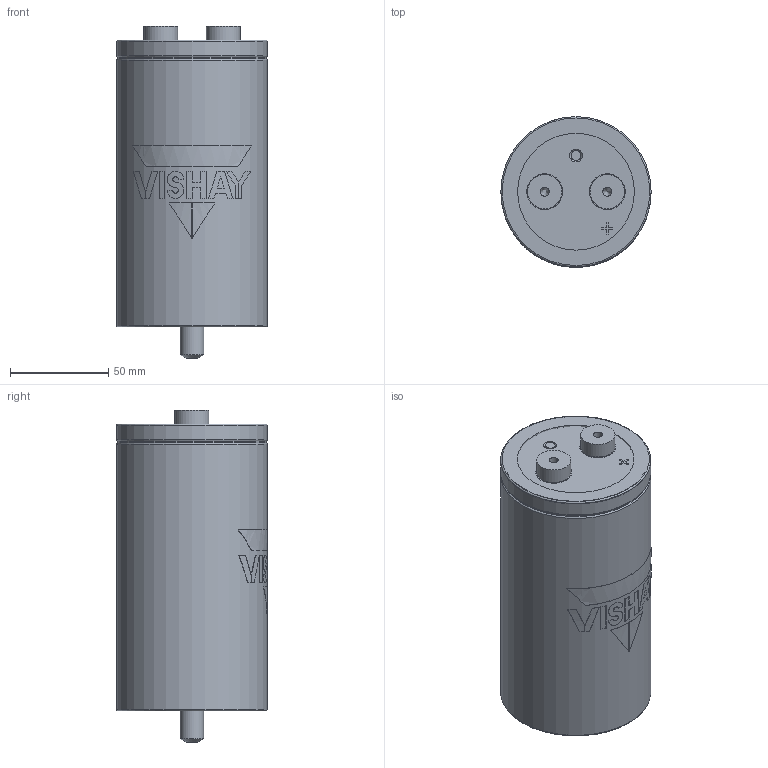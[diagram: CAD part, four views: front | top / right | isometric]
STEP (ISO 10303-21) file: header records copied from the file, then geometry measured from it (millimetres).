
FILE_DESCRIPTION(('FreeCAD Model'),'2;1');
FILE_NAME('C:/Users/tvandesteeg/Documents/Documents/FreeCAD/Stepfiles/ST capacitors/STB_HP_18mm_UNF14-28_76x146.step','2020-12-14T17:24:25',( 'Author'),(''),'Open CASCADE STEP processor 7.3','FreeCAD','Unknown' );
FILE_SCHEMA(('AUTOMOTIVE_DESIGN { 1 0 10303 214 1 1 1 1 }'));
Length unit declared in the file: millimetre
Products named in the file (8): VentBody; TerminalHole; TerminalBody_(Mirror_#2); TerminalBody; STBBottomBody; Disc; LogoPrint; CanBody
Bounding box: 76.4 x 76.5 x 168.8 mm (x, y, z)
Volume: 674229.5 mm3; surface area: 73467.3 mm2
Topology: 18 solids, 18 shells, 155 faces, 321 edges, 211 vertices
Faces by surface type: plane 96, cylinder 50, torus 5, cone 4
Full cylindrical faces by diameter (mm): 4.579 x2, 5 x2, 11.966 x1, 17.3 x2, 17.8 x7, 18.3 x2, 59.422 x3, 73.6 x2, 75 x1, 76.4 x2
Entity records: 10900 total; most frequent: CARTESIAN_POINT 3392, DIRECTION 1245, ORIENTED_EDGE 638, PCURVE 638, DEFINITIONAL_REPRESENTATION 638, LINE 547, VECTOR 547, EDGE_CURVE 319
